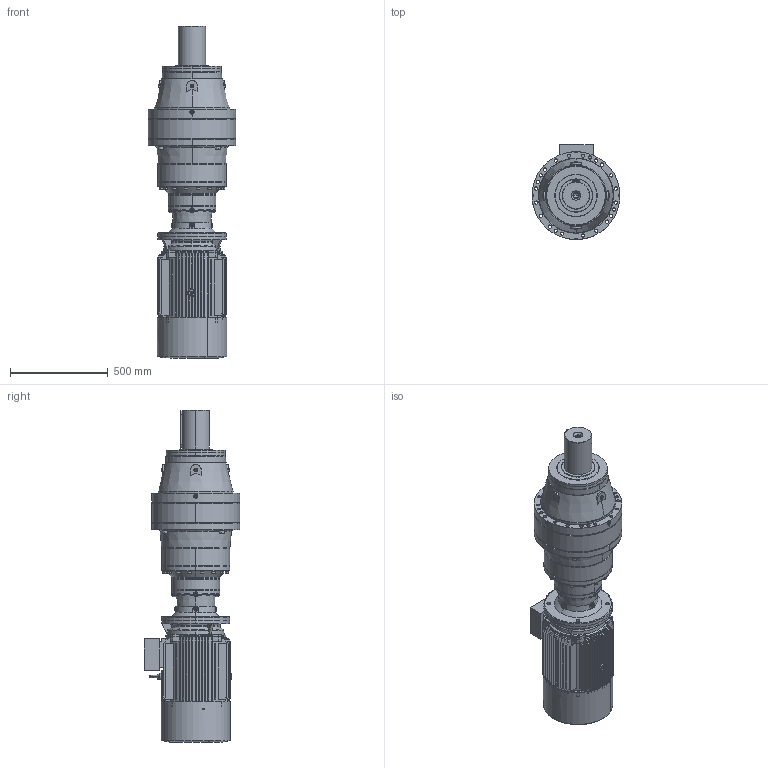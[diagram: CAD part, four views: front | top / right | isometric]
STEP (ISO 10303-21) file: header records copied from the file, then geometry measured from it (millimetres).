
FILE_DESCRIPTION (( 'STEP AP203' ), '1' );
FILE_NAME ('PVL-3503L-HS180L-4.STEP', '2019-05-27T08:45:56', ( '' ), ( '' ), 'SwSTEP 2.0', 'SolidWorks 2012', '' );
FILE_SCHEMA (( 'CONFIG_CONTROL_DESIGN' ));
Products named in the file (15): M3-HS180L-FF-B5; PVL-3503L-HS180L-4; Y2-180-4.6.8-ª+---®+_-++ñ; M3-180L-FF-B5; Y2-180C++A+¦-¯ª¦+¦_-++ñ; Y2-180-4.6.8+ª-¯ª­-È®+_-++ñ; Y2-180+¦i-_-++ñ; Y2-180LB5+À+¿_-++ñ; Eyebolts GB_GB_FASTENER_SCREWS_FRS M12; ML55A_Varsayìlan; FL17A_Varsayìlan; PNL_3503L_0_0_A18_B5_ML55A_FL17A_0_0_0_0_0_0_0_0_0_0_0_M1; EK3503L_Varsayìlan; 15180B5_Varsayìlan; P35_Varsayìlan
Assembly tree (14 placements, depth 4):
  PVL-3503L-HS180L-4
    PNL_3503L_0_0_A18_B5_ML55A_FL17A_0_0_0_0_0_0_0_0_0_0_0_M1
      P35_Varsayìlan
      15180B5_Varsayìlan
      ML55A_Varsayìlan
      EK3503L_Varsayìlan
      FL17A_Varsayìlan
    M3-HS180L-FF-B5
      M3-180L-FF-B5
        Eyebolts GB_GB_FASTENER_SCREWS_FRS M12
        Y2-180LB5+À+¿_-++ñ
        Y2-180+¦i-_-++ñ
        Y2-180-4.6.8-ª+---®+_-++ñ
        Y2-180C++A+¦-¯ª¦+¦_-++ñ
        Y2-180-4.6.8+ª-¯ª­-È®+_-++ñ
Bounding box: 450 x 488.59 x 1700.5 mm (x, y, z)
Volume: 93593803.5 mm3; surface area: 5345522.9 mm2
Topology: 16 solids, 16 shells, 2869 faces, 7507 edges, 4757 vertices
Faces by surface type: plane 1141, cylinder 917, cone 396, bspline 383, torus 32
Entity records: 110066 total; most frequent: CARTESIAN_POINT 39665, ORIENTED_EDGE 14802, DIRECTION 14086, EDGE_CURVE 7401, AXIS2_PLACEMENT_3D 5511, VERTEX_POINT 4757, EDGE_LOOP 3314, LINE 3064
